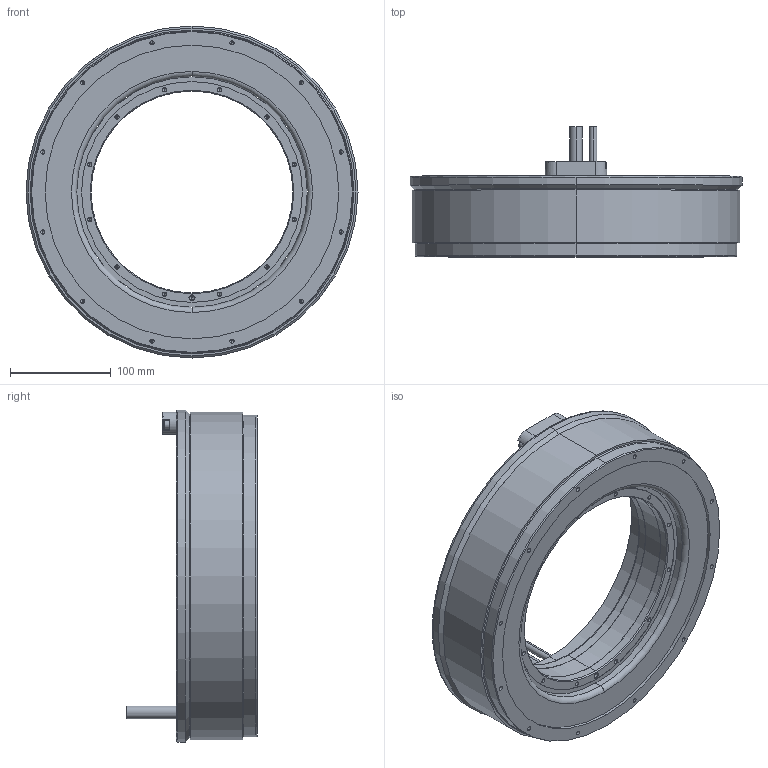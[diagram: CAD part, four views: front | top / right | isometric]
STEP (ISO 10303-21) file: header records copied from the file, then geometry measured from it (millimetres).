
FILE_DESCRIPTION (( 'STEP AP203' ), '1' );
FILE_NAME ('TM-2-74-PB0(J0).STEP', '2023-06-06T01:33:31', ( '' ), ( '' ), 'SwSTEP 2.0', 'SolidWorks 2015', '' );
FILE_SCHEMA (( 'CONFIG_CONTROL_DESIGN' ));
Length unit declared in the file: millimetre
Products named in the file (3): TM-2-74(J0)_Rotor; TM-2-74-PB0(J0)_Stator; TM-2-74-PB0(J0)
Assembly tree (2 placements, depth 2):
  TM-2-74-PB0(J0)
    TM-2-74-PB0(J0)_Stator
    TM-2-74(J0)_Rotor
Bounding box: 329 x 129 x 329 mm (x, y, z)
Volume: 3605619.9 mm3; surface area: 315473.6 mm2
Topology: 2 solids, 2 shells, 330 faces, 794 edges, 431 vertices
Faces by surface type: cylinder 154, cone 126, plane 44, torus 6
Entity records: 9127 total; most frequent: DIRECTION 1704, CARTESIAN_POINT 1454, ORIENTED_EDGE 1376, EDGE_CURVE 688, AXIS2_PLACEMENT_3D 681, VERTEX_POINT 431, EDGE_LOOP 403, CIRCLE 346
